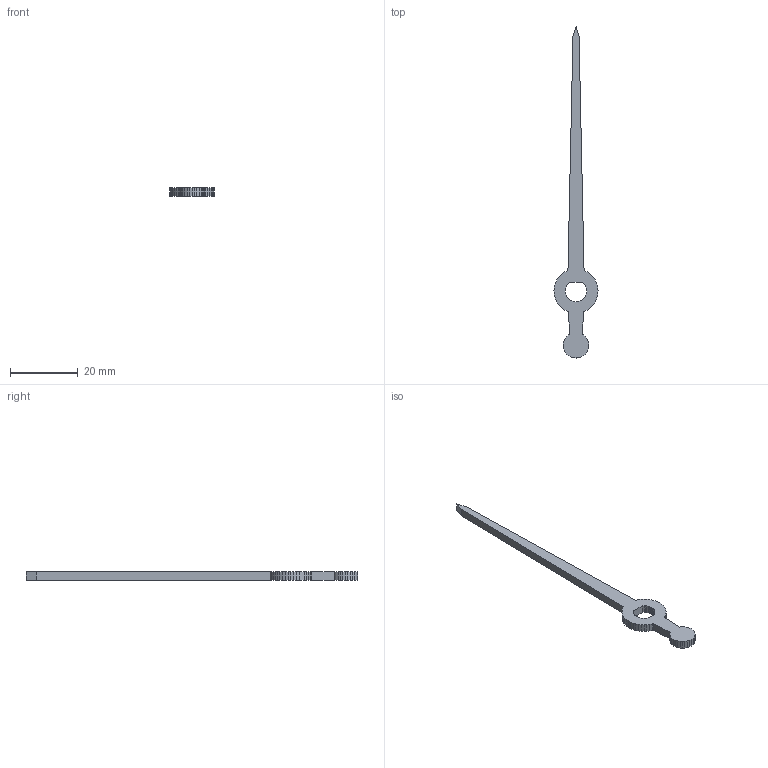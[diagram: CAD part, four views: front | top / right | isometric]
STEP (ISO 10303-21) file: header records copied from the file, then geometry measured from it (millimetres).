
FILE_DESCRIPTION(('Open CASCADE Model'),'2;1');
FILE_NAME('Open CASCADE Shape Model','2026-10-12T22:10:18',('Author'),( 'Open CASCADE'),'Open CASCADE STEP processor 7.9','Open CASCADE 7.9' ,'Unknown');
FILE_SCHEMA(('AUTOMOTIVE_DESIGN { 1 0 10303 214 1 1 1 1 }'));
Length unit declared in the file: millimetre
Products named in the file (1): Open CASCADE STEP translator 7.9 24
Bounding box: 13 x 97.75 x 2.4 mm (x, y, z)
Volume: 954.8 mm3; surface area: 1343.5 mm2
Topology: 1 solids, 1 shells, 113 faces, 333 edges, 222 vertices
Faces by surface type: plane 113
Entity records: 8030 total; most frequent: CARTESIAN_POINT 1335, DIRECTION 1227, LINE 999, VECTOR 999, ORIENTED_EDGE 666, PCURVE 666, DEFINITIONAL_REPRESENTATION 666, EDGE_CURVE 333
